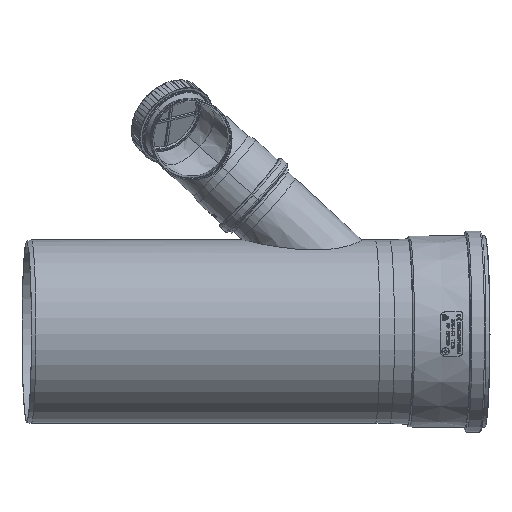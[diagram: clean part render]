
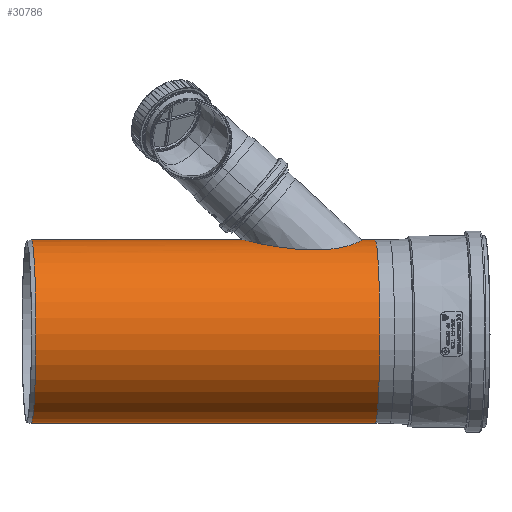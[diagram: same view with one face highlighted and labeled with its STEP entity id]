
A CAD part, front view. The second image highlights one B-rep face of the part: STEP entity #30786.
In plain terms, the highlighted cylindrical face has radius 125 mm (diameter 250 mm), a partial arc.
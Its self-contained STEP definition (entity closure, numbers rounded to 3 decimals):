
#30521=CARTESIAN_POINT('',(0.,8.,0.));
#30522=DIRECTION('',(0.,-1.,0.));
#30523=DIRECTION('',(1.,0.,0.));
#30524=AXIS2_PLACEMENT_3D('',#30521,#30522,#30523);
#30526=CARTESIAN_POINT('',(-125.,456.23,0.));
#30527=CARTESIAN_POINT('',(-125.,456.23,1.885));
#30528=CARTESIAN_POINT('',(-124.915,456.02,
5.637));
#30529=CARTESIAN_POINT('',(-124.535,455.061,
11.244));
#30530=CARTESIAN_POINT('',(-123.921,453.468,
16.675));
#30531=CARTESIAN_POINT('',(-123.12,451.295,
21.796));
#30532=CARTESIAN_POINT('',(-122.158,448.531,
26.655));
#30533=CARTESIAN_POINT('',(-121.019,445.001,
31.421));
#30534=CARTESIAN_POINT('',(-119.708,440.499,
36.092));
#30535=CARTESIAN_POINT('',(-118.248,434.742,
40.615));
#30536=CARTESIAN_POINT('',(-116.709,427.342,
44.832));
#30537=CARTESIAN_POINT('',(-115.294,418.238,
48.331));
#30538=CARTESIAN_POINT('',(-114.226,407.415,
50.78));
#30539=CARTESIAN_POINT('',(-113.737,395.542,
51.854));
#30540=CARTESIAN_POINT('',(-113.84,384.005,
51.629));
#30541=CARTESIAN_POINT('',(-114.365,373.252,
50.463));
#30542=CARTESIAN_POINT('',(-115.151,363.529,
48.65));
#30543=CARTESIAN_POINT('',(-116.037,355.147,
46.5));
#30544=CARTESIAN_POINT('',(-116.929,347.994,
44.213));
#30545=CARTESIAN_POINT('',(-117.8,341.748,
41.838));
#30546=CARTESIAN_POINT('',(-118.652,336.134,
39.36));
#30547=CARTESIAN_POINT('',(-119.501,330.897,
36.707));
#30548=CARTESIAN_POINT('',(-120.384,325.755,
33.711));
#30549=CARTESIAN_POINT('',(-121.288,320.748,
30.313));
#30550=CARTESIAN_POINT('',(-122.173,316.052,
26.537));
#30551=CARTESIAN_POINT('',(-123.014,311.752,
22.346));
#30552=CARTESIAN_POINT('',(-123.786,307.923,
17.617));
#30553=CARTESIAN_POINT('',(-124.432,304.801,
12.345));
#30554=CARTESIAN_POINT('',(-124.887,302.638,
6.396));
#30555=CARTESIAN_POINT('',(-125.,302.107,2.183));
#30556=CARTESIAN_POINT('',(-125.,302.107,0.));
#30558=CARTESIAN_POINT('',(0.,477.,0.));
#30559=DIRECTION('',(0.,-1.,0.));
#30560=DIRECTION('',(1.,0.,0.));
#30561=AXIS2_PLACEMENT_3D('',#30558,#30559,#30560);
#30563=DIRECTION('',(0.,1.,0.));
#30564=VECTOR('',#30563,469.);
#30565=CARTESIAN_POINT('',(125.,8.,0.));
#30566=LINE('1140850950',#30565,#30564);
#30572=DIRECTION('',(0.,1.,0.));
#30573=VECTOR('',#30572,20.77);
#30574=CARTESIAN_POINT('',(-125.,456.23,0.));
#30575=LINE('1140850947',#30574,#30573);
#30608=DIRECTION('',(0.,1.,0.));
#30609=VECTOR('',#30608,294.107);
#30610=CARTESIAN_POINT('',(-125.,8.,0.));
#30611=LINE('1140850952',#30610,#30609);
#30739=CARTESIAN_POINT('',(125.,477.,0.));
#30740=CARTESIAN_POINT('',(-125.,477.,0.));
#30741=VERTEX_POINT('',#30739);
#30742=VERTEX_POINT('',#30740);
#30747=CARTESIAN_POINT('',(-125.,456.23,0.));
#30749=VERTEX_POINT('',#30747);
#30751=CARTESIAN_POINT('',(-125.,302.107,0.));
#30753=VERTEX_POINT('',#30751);
#30763=CARTESIAN_POINT('',(125.,8.,0.));
#30764=VERTEX_POINT('',#30763);
#30765=CARTESIAN_POINT('',(-125.,8.,0.));
#30766=VERTEX_POINT('',#30765);
#30767=CARTESIAN_POINT('',(0.,504.,0.));
#30768=DIRECTION('',(0.,-1.,0.));
#30769=DIRECTION('',(-1.,0.,0.));
#30770=AXIS2_PLACEMENT_3D('',#30767,#30768,#30769);
#30771=CYLINDRICAL_SURFACE('426',#30770,125.);
#30773=ORIENTED_EDGE('1140850950',*,*,#30772,.F.);
#30775=ORIENTED_EDGE('1140850954',*,*,#30774,.T.);
#30777=ORIENTED_EDGE('1140850952',*,*,#30776,.T.);
#30779=ORIENTED_EDGE('1140850942',*,*,#30778,.F.);
#30781=ORIENTED_EDGE('1140850947',*,*,#30780,.T.);
#30783=ORIENTED_EDGE('1107296336',*,*,#30782,.F.);
#30784=EDGE_LOOP('426',(#30773,#30775,#30777,#30779,#30781,#30783));
#30785=FACE_OUTER_BOUND('426',#30784,.F.);
#30525=CIRCLE('1140850954',#30524,125.);
#30557=B_SPLINE_CURVE_WITH_KNOTS('1140850942',3,(#30526,#30527,#30528,#30529,
#30530,#30531,#30532,#30533,#30534,#30535,#30536,#30537,#30538,#30539,#30540,
#30541,#30542,#30543,#30544,#30545,#30546,#30547,#30548,#30549,#30550,#30551,
#30552,#30553,#30554,#30555,#30556),.UNSPECIFIED.,.F.,.F.,(4,1,1,1,1,1,1,1,1,1,
1,1,1,1,1,1,1,1,1,1,1,1,1,1,1,1,1,1,4),(0.,0.036,
0.071,0.107,0.143,0.179,
0.214,0.25,0.286,0.321,0.357,
0.393,0.429,0.464,0.5,0.536,
0.571,0.607,0.643,0.679,
0.714,0.75,0.786,0.821,0.857,
0.893,0.929,0.964,1.),.UNSPECIFIED.);
#30562=CIRCLE('1107296336',#30561,125.);
#30772=EDGE_CURVE('1140850950',#30764,#30741,#30566,.T.);
#30774=EDGE_CURVE('1140850954',#30764,#30766,#30525,.T.);
#30776=EDGE_CURVE('1140850952',#30766,#30753,#30611,.T.);
#30778=EDGE_CURVE('1140850942',#30749,#30753,#30557,.T.);
#30780=EDGE_CURVE('1140850947',#30749,#30742,#30575,.T.);
#30782=EDGE_CURVE('1107296336',#30741,#30742,#30562,.T.);
#30786=ADVANCED_FACE('426',(#30785),#30771,.T.);
